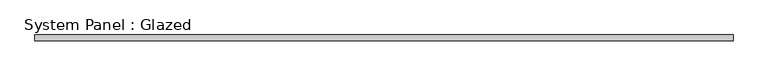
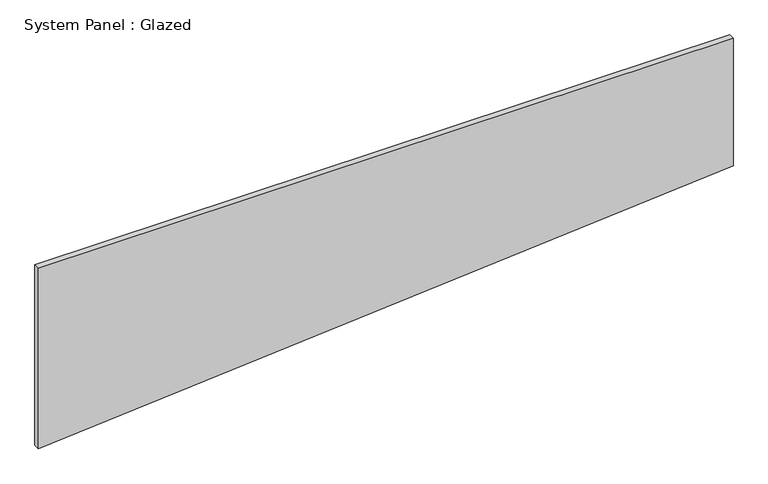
"""IFC4 building model written with IfcOpenShell, lengths in millimetres: plate geometry, System Panel : Glazed."""

from ifc_helpers import new_model, si_unit, frame, origin, place, context, project, spatial, polyline, outline, extrude, source, transform, mapped, element, save


def system_panel_glazed_b915fa72(model_context):
    return source(origin(), model_context, "Body", "SweptSolid", [
        extrude(outline(polyline([(0.0, -1504.95), (242.7287344, 1504.95), (825.6447214, 1504.95), (825.6447214, -1504.95), (0.0, -1504.95)])), frame((0.0, 19.05, 0.0), z_axis=(0.0, 1.0, 0.0), x_axis=(0.0, 0.0, 1.0)), (0.0, 0.0, 1.0), 25.4),
    ])


if __name__ == "__main__":
    model = new_model("IFC4")
    model_context = context("Model", 3, world=origin())
    ifc_project = project(units=[si_unit("LENGTHUNIT", "METRE", prefix="MILLI")], contexts=[model_context])
    site = spatial("IfcSite", under=ifc_project)
    building = spatial("IfcBuilding", under=site)
    placement = place(None, origin())
    system_panel_glazed_shape = system_panel_glazed_b915fa72(model_context)
    element("IfcPlate", 1, ObjectType="System Panel : Glazed", at=placement, inside=building, context=model_context, shape_type="MappedRepresentation", body=[
        mapped(system_panel_glazed_shape, transform((0.0, 0.0, 0.0), x_axis=(1.0, 0.0, 0.0), y_axis=(0.0, 1.0, 0.0), z_axis=(0.0, 0.0, 1.0))),
    ])
    save(model, "model.ifc")
